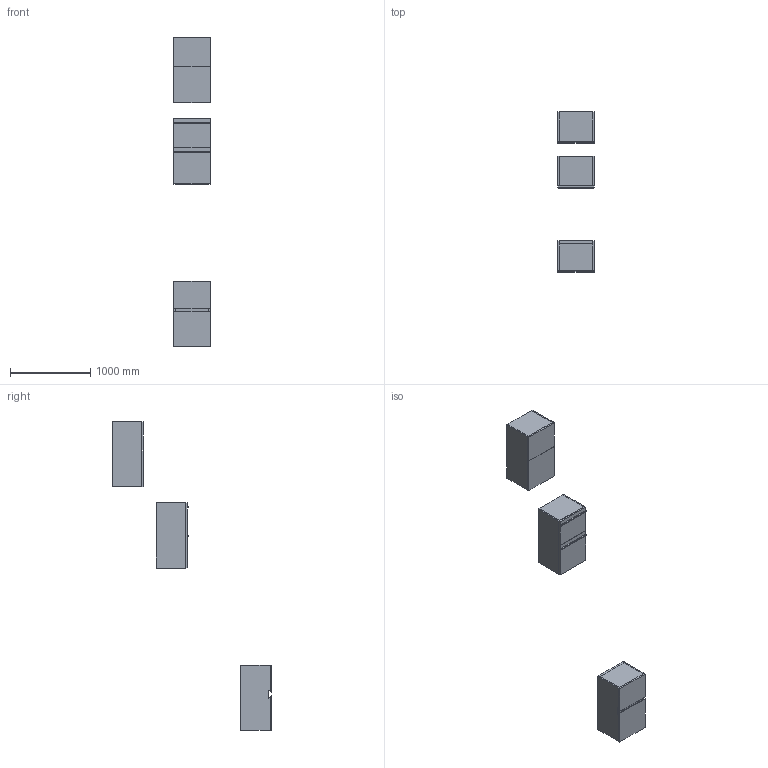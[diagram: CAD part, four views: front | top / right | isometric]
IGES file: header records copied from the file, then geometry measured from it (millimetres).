
Start section: Data from Parasolid IGES Translator 19.0.9, Copyright(c) 2006 Siemens PL M Software. All Rights Reserved.
Global section: file name: noorth-SI-H 81,2 D 38,8 W 45_8683.igs; native system: By Siemens PLM Incorporated; preprocessor: XPlus GENERIC/IGES 19.0.9; author: Noname; organization: Noname; date: 20200601.123135; units: metre
Bounding box: 450 x 1986 x 3842 mm (x, y, z)
Volume: 67467416.7 mm3; surface area: 10330003.2 mm2
Topology: 25 solids, 25 shells, 254 faces, 556 edges, 332 vertices
Faces by surface type: plane 170, extrusion 36, bspline 32, cylinder 16
